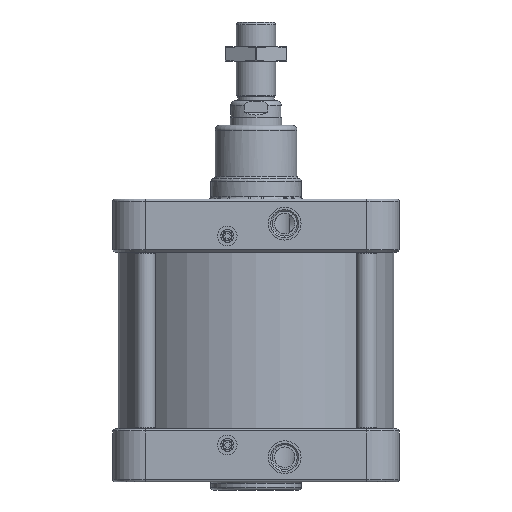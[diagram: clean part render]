
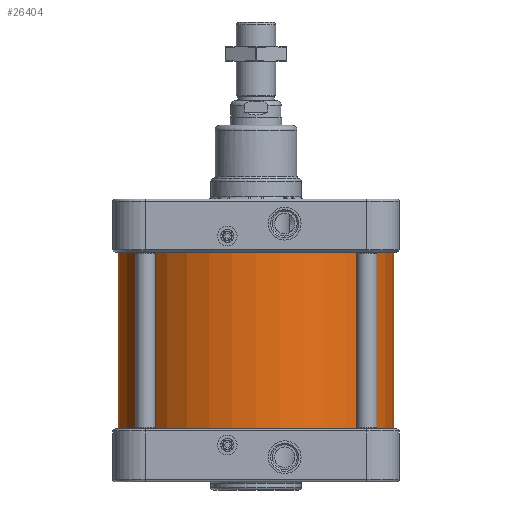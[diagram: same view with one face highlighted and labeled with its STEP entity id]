
A CAD part, front view. The second image highlights one B-rep face of the part: STEP entity #26404.
In plain terms, the highlighted cylindrical face has radius 168 mm (diameter 336 mm), a full revolution.
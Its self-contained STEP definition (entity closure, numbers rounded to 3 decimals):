
#2804=CIRCLE('',#29645,168.);
#2805=CIRCLE('',#29647,168.);
#3478=FACE_BOUND('',#7098,.T.);
#5147=FACE_OUTER_BOUND('',#7097,.T.);
#7097=EDGE_LOOP('',(#22547));
#7098=EDGE_LOOP('',(#22548));
#11979=VERTEX_POINT('',#64759);
#11980=VERTEX_POINT('',#64762);
#15511=EDGE_CURVE('',#11979,#11979,#2804,.T.);
#15512=EDGE_CURVE('',#11980,#11980,#2805,.T.);
#22547=ORIENTED_EDGE('',*,*,#15511,.T.);
#22548=ORIENTED_EDGE('',*,*,#15512,.T.);
#23070=CYLINDRICAL_SURFACE('',#29646,168.);
#26404=ADVANCED_FACE('',(#5147,#3478),#23070,.T.);
#29645=AXIS2_PLACEMENT_3D('',#64760,#36878,#36879);
#29646=AXIS2_PLACEMENT_3D('',#64761,#36880,#36881);
#29647=AXIS2_PLACEMENT_3D('',#64763,#36882,#36883);
#36878=DIRECTION('center_axis',(0.,0.,1.));
#36879=DIRECTION('ref_axis',(-1.,0.,0.));
#36880=DIRECTION('center_axis',(0.,0.,1.));
#36881=DIRECTION('ref_axis',(-1.,0.,0.));
#36882=DIRECTION('center_axis',(0.,0.,-1.));
#36883=DIRECTION('ref_axis',(-1.,0.,0.));
#64759=CARTESIAN_POINT('',(168.,0.,-107.5));
#64760=CARTESIAN_POINT('Origin',(0.,0.,-107.5));
#64761=CARTESIAN_POINT('Origin',(0.,0.,0.));
#64762=CARTESIAN_POINT('',(168.,0.,107.5));
#64763=CARTESIAN_POINT('Origin',(0.,0.,107.5));
